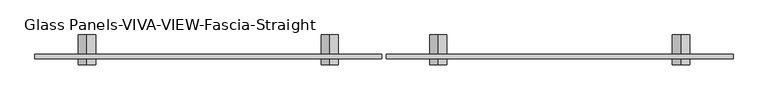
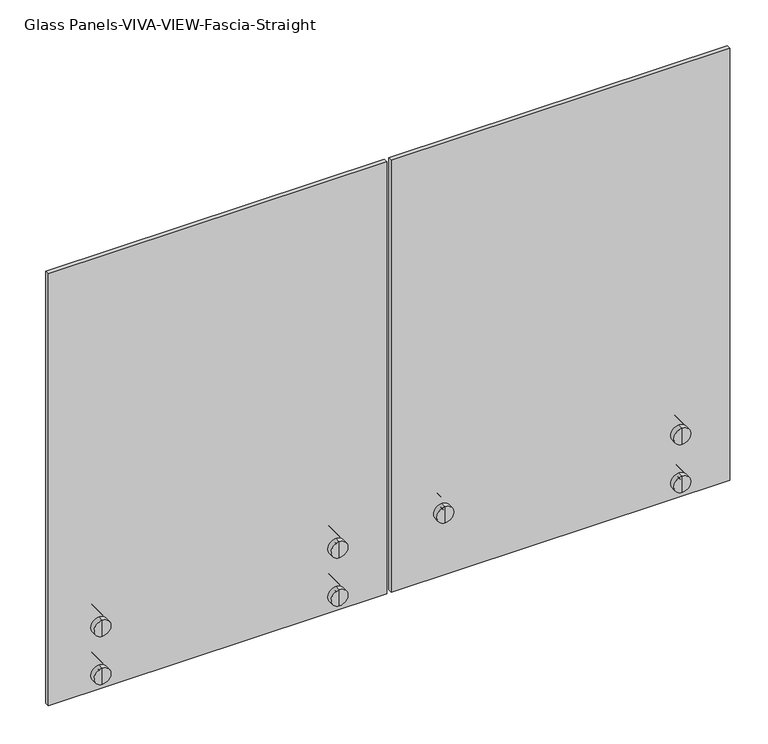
"""IFC4 building model written with IfcOpenShell, lengths in millimetres: railing geometry, Glass Panels-VIVA-VIEW-Fascia-Straight."""

import ifcopenshell
import ifcopenshell.guid

model = None  # the IFC model being written
_history = None  # IfcOwnerHistory: only IFC2X3 demands one
_inside = {}  # id of a spatial element -> (the spatial element, [elements in it])
_under = {}  # id of a project, library or spatial element -> (it, [spatial elements below it])
_declared = {}  # id of a project -> (the project, [libraries it declares])
_typed = {}  # id of a type object -> (the type object, [elements of that type])
_made_of = {}  # id of a material, layer set ... -> (it, [elements and type objects made of it])


def new_model(schema):
    """Start an empty IFC model of exactly this schema.

    Asked for "IFC4X3", IfcOpenShell would pick the latest addendum, in which some entities
    have other attributes; the version numbers below select the first issue.
    IFC2X3 requires an IfcOwnerHistory on every rooted entity: one is made here for all.
    """
    global model, _history
    if schema == "IFC4X3":
        model = ifcopenshell.file(schema_version=(4, 3, 0, 0))
    else:
        model = ifcopenshell.file(schema=schema)
    _inside.clear()
    _under.clear()
    _declared.clear()
    _typed.clear()
    _made_of.clear()
    _history = None
    if model.schema == "IFC2X3":
        org = make("IfcOrganization", Name="unknown")
        user = make(
            "IfcPersonAndOrganization",
            ThePerson=make("IfcPerson", FamilyName="unknown"),
            TheOrganization=org,
        )
        app = make(
            "IfcApplication",
            ApplicationDeveloper=org,
            Version="unknown",
            ApplicationFullName="unknown",
            ApplicationIdentifier="unknown",
        )
        _history = make(
            "IfcOwnerHistory",
            OwningUser=user,
            OwningApplication=app,
            ChangeAction="ADDED",
            CreationDate=0,
        )
    return model


def make(cls, **values):
    """One entity of the class cls with the attributes given. An attribute that is None is left unset."""
    return model.create_entity(
        cls, **{name: value for name, value in values.items() if value is not None}
    )


def rooted(cls, **values):
    """An entity with a GlobalId (a new one), such as an element, a storey or a relation."""
    return make(cls, GlobalId=ifcopenshell.guid.new(), OwnerHistory=_history, **values)


def si_unit(unit_type, name, prefix=None):
    """IfcSIUnit, for example si_unit("LENGTHUNIT", "METRE", prefix="MILLI")."""
    return make("IfcSIUnit", UnitType=unit_type, Prefix=prefix, Name=name)


def assignment(units):
    """IfcUnitAssignment: the units of a project."""
    return None if units is None else make("IfcUnitAssignment", Units=units)


def point(xyz):
    """IfcCartesianPoint."""
    return None if xyz is None else make("IfcCartesianPoint", Coordinates=xyz)


def direction(xyz):
    """IfcDirection."""
    return None if xyz is None else make("IfcDirection", DirectionRatios=xyz)


def frame(location, z_axis=None, x_axis=None):
    """IfcAxis2Placement3D, a coordinate frame: its origin and axes. An axis left out is left unset."""
    return make(
        "IfcAxis2Placement3D",
        Location=point(location),
        Axis=direction(z_axis),
        RefDirection=direction(x_axis),
    )


def origin():
    """The frame at (0, 0, 0) with its axes left unset."""
    return frame((0.0, 0.0, 0.0))


def place(relative_to, where):
    """IfcLocalPlacement: puts the frame where relative to a parent placement (None: the world)."""
    return make(
        "IfcLocalPlacement", PlacementRelTo=relative_to, RelativePlacement=where
    )


def context(
    kind, dimensions, precision=None, world=None, true_north=None, identifier=None
):
    """IfcGeometricRepresentationContext, for example the 3D "Model" context."""
    return make(
        "IfcGeometricRepresentationContext",
        ContextIdentifier=identifier,
        ContextType=kind,
        CoordinateSpaceDimension=dimensions,
        Precision=precision,
        WorldCoordinateSystem=world,
        TrueNorth=true_north,
    )


def project(units=None, contexts=None):
    """IfcProject with its units and contexts."""
    return rooted(
        "IfcProject",
        Name="project",
        RepresentationContexts=contexts,
        UnitsInContext=assignment(units),
    )


def spatial(cls, under=None, at=None, **own):
    """A site, building, storey or space (cls), placed at a placement, below another one or the project."""
    s = rooted(cls, ObjectPlacement=at, **own)
    if under is not None:
        _under.setdefault(under.id(), (under, []))[1].append(s)
    return s


def polyline(points):
    """IfcPolyline through the points."""
    return make("IfcPolyline", Points=[point(p) for p in points])


def circle_curve(where, radius):
    """IfcCircle in the frame where."""
    return make("IfcCircle", Position=where, Radius=radius)


def outline(outer, holes=None, kind="AREA"):
    """IfcArbitraryClosedProfileDef: a profile drawn as a closed curve; with holes, ...WithVoids."""
    if holes is None:
        return make("IfcArbitraryClosedProfileDef", ProfileType=kind, OuterCurve=outer)
    return make(
        "IfcArbitraryProfileDefWithVoids",
        ProfileType=kind,
        OuterCurve=outer,
        InnerCurves=holes,
    )


def extrude(swept, where, along, depth):
    """IfcExtrudedAreaSolid: the profile swept, set in the frame where, extruded along a direction by depth."""
    return make(
        "IfcExtrudedAreaSolid",
        SweptArea=swept,
        Position=where,
        ExtrudedDirection=direction(along),
        Depth=depth,
    )


def shape(context_of_items, identifier, shape_type, items):
    """IfcShapeRepresentation: the items that make up one representation, for example the "Body"."""
    return make(
        "IfcShapeRepresentation",
        ContextOfItems=context_of_items,
        RepresentationIdentifier=identifier,
        RepresentationType=shape_type,
        Items=items,
    )


def source(mapping_origin, context_of_items, identifier, shape_type, items):
    """IfcRepresentationMap: a shape defined once, which mapped items show again and again."""
    return make(
        "IfcRepresentationMap",
        MappingOrigin=mapping_origin,
        MappedRepresentation=shape(context_of_items, identifier, shape_type, items),
    )


def transform(
    local_origin,
    x_axis=None,
    y_axis=None,
    z_axis=None,
    scale=None,
    scale2=None,
    scale3=None,
    uniform=True,
):
    """IfcCartesianTransformationOperator3D, or its non-uniform kind. x_axis, y_axis, z_axis: its Axis1, 2, 3."""
    if uniform:
        return make(
            "IfcCartesianTransformationOperator3D",
            Axis1=direction(x_axis),
            Axis2=direction(y_axis),
            LocalOrigin=point(local_origin),
            Scale=scale,
            Axis3=direction(z_axis),
        )
    return make(
        "IfcCartesianTransformationOperator3DnonUniform",
        Axis1=direction(x_axis),
        Axis2=direction(y_axis),
        LocalOrigin=point(local_origin),
        Scale=scale,
        Axis3=direction(z_axis),
        Scale2=scale2,
        Scale3=scale3,
    )


def mapped(mapping_source, mapping_target):
    """IfcMappedItem: shows the shape of a source again, moved by a transform."""
    return make(
        "IfcMappedItem", MappingSource=mapping_source, MappingTarget=mapping_target
    )


def made_of(thing, what):
    """Note that an element or type object is made of a material, layer set ...; save() writes the relation."""
    if what is not None:
        _made_of.setdefault(what.id(), (what, []))[1].append(thing)
    return thing


def element(
    cls,
    number,
    at=None,
    inside=None,
    cuts=None,
    type_object=None,
    material=None,
    context=None,
    identifier="Body",
    shape_type=None,
    held_by="IfcProductDefinitionShape",
    body=None,
    shapes=None,
    **own,
):
    """One element of the class cls, such as IfcWall. Its Tag is "e" and its number.

    at: its placement. inside: the storey or other place that contains it. cuts: it is an
    opening in that element (IfcRelVoidsElement). A single representation is given by context,
    identifier, shape_type and body (its items); several are given by shapes. held_by: the class
    of the entity that holds the representations. save() writes the other relations.
    """
    e = rooted(cls, Tag="e%d" % number, ObjectPlacement=at, **own)
    if body is not None:
        shapes = [shape(context, identifier, shape_type, body)]
    if shapes is not None:
        e.Representation = make(held_by, Representations=shapes)
    if inside is not None:
        _inside.setdefault(inside.id(), (inside, []))[1].append(e)
    if cuts is not None:
        rooted(
            "IfcRelVoidsElement", RelatingBuildingElement=cuts, RelatedOpeningElement=e
        )
    if type_object is not None:
        _typed.setdefault(type_object.id(), (type_object, []))[1].append(e)
    return made_of(e, material)


def aggregate(whole, parts):
    """IfcRelAggregates: a whole, such as a stair, and the parts it consists of."""
    return rooted("IfcRelAggregates", RelatingObject=whole, RelatedObjects=parts)


def save(model, path):
    """Write the relations noted so far, then the file.

    IfcRelAggregates (storeys below a building ...), IfcRelContainedInSpatialStructure (elements
    in a storey), IfcRelDefinesByType, IfcRelAssociatesMaterial and IfcRelDeclares: one each for
    every whole, place, type object, material and project.
    """
    for whole, parts in _under.values():
        aggregate(whole, parts)
    for where, things in _inside.values():
        rooted(
            "IfcRelContainedInSpatialStructure",
            RelatedElements=things,
            RelatingStructure=where,
        )
    for kind, things in _typed.values():
        rooted("IfcRelDefinesByType", RelatedObjects=things, RelatingType=kind)
    for what, things in _made_of.values():
        rooted("IfcRelAssociatesMaterial", RelatedObjects=things, RelatingMaterial=what)
    for by, libraries in _declared.values():
        rooted("IfcRelDeclares", RelatingContext=by, RelatedDefinitions=libraries)
    model.write(path)


def plane_surface(at):
    """IfcPlane: the flat surface through the origin of the frame at, square to its z axis."""
    return make("IfcPlane", Position=at)


def cylinder_surface(at, radius):
    """IfcCylindricalSurface: all points at the distance radius from the z axis of the frame at."""
    return make("IfcCylindricalSurface", Position=at, Radius=radius)


def advanced_brep(points, edges, surfaces, faces):
    """IfcAdvancedBrep: a solid bounded by faces that lie on surfaces and meet in shared edges.

    An edge is (start, end): straight between two places in points (the first is 0);
    or (start, end, curve); or (start, end, curve, False) where it runs against its curve.
    A face is (place in surfaces, loops), or (place, loops, False) where it looks against
    its surface's normal. A loop lists edges by number (the first is 1), with a minus sign
    where the edge is run from its end to its start. The first loop is the outer one.
    """
    corners = [point(p) for p in points]
    vertices = [make("IfcVertexPoint", VertexGeometry=c) for c in corners]
    made = []
    for start, end, *more in edges:
        made.append(
            make(
                "IfcEdgeCurve",
                EdgeStart=vertices[start],
                EdgeEnd=vertices[end],
                EdgeGeometry=more[0] if more else make("IfcPolyline", Points=[corners[start], corners[end]]),
                SameSense=more[1] if len(more) > 1 else True,
            )
        )
    hull = []
    for where, loops, *sense in faces:
        bounds = []
        for j, loop in enumerate(loops):
            ring = [make("IfcOrientedEdge", EdgeElement=made[abs(k) - 1], Orientation=k > 0) for k in loop]
            bounds.append(
                make(
                    "IfcFaceOuterBound" if j == 0 else "IfcFaceBound",
                    Bound=make("IfcEdgeLoop", EdgeList=ring),
                    Orientation=True,
                )
            )
        hull.append(make("IfcAdvancedFace", Bounds=bounds, FaceSurface=surfaces[where], SameSense=sense[0] if sense else True))
    return make("IfcAdvancedBrep", Outer=make("IfcClosedShell", CfsFaces=hull))


def glass_panels_viva_view_fascia_straight_a0ca7b8d(model_context):
    return source(origin(), model_context, "Body", "SolidModel", [
        advanced_brep(
        [(16277.3042944, -6680.859506, -81.915), (16277.3042944, -6680.859506, -70.485), (16277.3042944, -6680.859506, -50.8), (16277.3042944, -6680.859506, -101.6), (16277.3042944, -6668.159506, -81.915), (16277.3042944, -6668.159506, -70.485), (16277.3042944, -6668.159506, -101.6), (16277.3042944, -6668.159506, -50.8), (16277.3042944, -6611.0096529, -101.6), (16277.3042944, -6611.0096529, -50.8), (16277.3042944, -6611.0096529, -76.2), (16277.3042944, -6698.322006, -101.6), (16277.3042944, -6698.322006, -50.8), (16277.3042944, -6698.322006, -76.2)],
        [
            (0, 1, circle_curve(frame((16277.3042944, -6680.859506, -76.2), z_axis=(0.0, -1.0, 0.0), x_axis=(0.0, 0.0, 1.0)), 5.715)),
            (1, 2),
            (2, 3, circle_curve(frame((16277.3042944, -6680.859506, -76.2), z_axis=(0.0, 1.0, 0.0), x_axis=(0.0, 0.0, 1.0)), 25.4)),
            (3, 0),
            (1, 0, circle_curve(frame((16277.3042944, -6680.859506, -76.2), z_axis=(0.0, -1.0, 0.0), x_axis=(0.0, 0.0, 1.0)), 5.715)),
            (3, 2, circle_curve(frame((16277.3042944, -6680.859506, -76.2), z_axis=(0.0, 1.0, 0.0), x_axis=(0.0, 0.0, 1.0)), 25.4)),
            (4, 5, circle_curve(frame((16277.3042944, -6668.159506, -76.2), z_axis=(0.0, -1.0, 0.0), x_axis=(0.0, 0.0, 1.0)), 5.715)),
            (5, 1),
            (0, 4),
            (5, 4, circle_curve(frame((16277.3042944, -6668.159506, -76.2), z_axis=(0.0, -1.0, 0.0), x_axis=(0.0, 0.0, 1.0)), 5.715)),
            (6, 7, circle_curve(frame((16277.3042944, -6668.159506, -76.2), z_axis=(0.0, -1.0, 0.0), x_axis=(0.0, 0.0, 1.0)), 25.4)),
            (7, 5),
            (4, 6),
            (7, 6, circle_curve(frame((16277.3042944, -6668.159506, -76.2), z_axis=(0.0, -1.0, 0.0), x_axis=(0.0, 0.0, 1.0)), 25.4)),
            (8, 9, circle_curve(frame((16277.3042944, -6611.0096529, -76.2), z_axis=(0.0, -1.0, 0.0), x_axis=(0.0, 0.0, 1.0)), 25.4)),
            (9, 7),
            (6, 8),
            (9, 8, circle_curve(frame((16277.3042944, -6611.0096529, -76.2), z_axis=(0.0, -1.0, 0.0), x_axis=(0.0, 0.0, 1.0)), 25.4)),
            (10, 9),
            (8, 10),
            (11, 12, circle_curve(frame((16277.3042944, -6698.322006, -76.2), z_axis=(0.0, -1.0, 0.0), x_axis=(0.0, 0.0, 1.0)), 25.4)),
            (12, 13),
            (13, 11),
            (12, 11, circle_curve(frame((16277.3042944, -6698.322006, -76.2), z_axis=(0.0, -1.0, 0.0), x_axis=(0.0, 0.0, 1.0)), 25.4)),
            (2, 12),
            (11, 3),
        ],
        [
            plane_surface(frame((16277.3042944, -6680.859506, -76.2), z_axis=(0.0, 1.0, 0.0), x_axis=(0.0, 0.0, 1.0))),
            cylinder_surface(frame((16277.3042944, -6766.5846529, -76.2), z_axis=(0.0, 1.0, 0.0), x_axis=(0.0, 0.0, 1.0)), 5.715),
            plane_surface(frame((16277.3042944, -6668.159506, -76.2), z_axis=(0.0, -1.0, 0.0), x_axis=(0.0, 0.0, 1.0))),
            cylinder_surface(frame((16277.3042944, -6766.5846529, -76.2), z_axis=(0.0, 1.0, 0.0), x_axis=(0.0, 0.0, 1.0)), 25.4),
            plane_surface(frame((16277.3042944, -6611.0096529, -76.2), z_axis=(0.0, 1.0, 0.0), x_axis=(0.0, 0.0, 1.0))),
            plane_surface(frame((16277.3042944, -6698.322006, -76.2), z_axis=(0.0, -1.0, 0.0), x_axis=(0.0, 0.0, 1.0))),
        ],
        [
            (0, [[1, 2, 3, 4]]),
            (0, [[5, -4, 6, -2]]),
            (1, [[7, 8, -1, 9]]),
            (1, [[10, -9, -5, -8]]),
            (2, [[11, 12, -7, 13]]),
            (2, [[14, -13, -10, -12]]),
            (3, [[15, 16, -11, 17]]),
            (3, [[18, -17, -14, -16]]),
            (4, [[19, -15, 20]]),
            (4, [[-20, -18, -19]]),
            (5, [[21, 22, 23]]),
            (5, [[24, -23, -22]]),
            (3, [[-3, 25, -21, 26]]),
            (3, [[-6, -26, -24, -25]]),
        ],
    ),
        advanced_brep(
        [(16988.5042944, -6698.322006, -254.0), (16988.5042944, -6698.322006, -203.2), (16988.5042944, -6698.322006, -228.6), (16988.5042944, -6680.859506, -254.0), (16988.5042944, -6680.859506, -203.2), (16988.5042944, -6680.859506, -234.315), (16988.5042944, -6680.859506, -222.885), (16988.5042944, -6668.159506, -234.315), (16988.5042944, -6668.159506, -222.885), (16988.5042944, -6668.159506, -254.0), (16988.5042944, -6668.159506, -203.2), (16988.5042944, -6611.0096529, -254.0), (16988.5042944, -6611.0096529, -203.2), (16988.5042944, -6611.0096529, -228.6)],
        [
            (0, 1, circle_curve(frame((16988.5042944, -6698.322006, -228.6), z_axis=(0.0, -1.0, 0.0), x_axis=(0.0, 0.0, 1.0)), 25.4)),
            (1, 2),
            (2, 0),
            (1, 0, circle_curve(frame((16988.5042944, -6698.322006, -228.6), z_axis=(0.0, -1.0, 0.0), x_axis=(0.0, 0.0, 1.0)), 25.4)),
            (3, 4, circle_curve(frame((16988.5042944, -6680.859506, -228.6), z_axis=(0.0, -1.0, 0.0), x_axis=(0.0, 0.0, 1.0)), 25.4)),
            (4, 1),
            (0, 3),
            (4, 3, circle_curve(frame((16988.5042944, -6680.859506, -228.6), z_axis=(0.0, -1.0, 0.0), x_axis=(0.0, 0.0, 1.0)), 25.4)),
            (5, 6, circle_curve(frame((16988.5042944, -6680.859506, -228.6), z_axis=(0.0, -1.0, 0.0), x_axis=(0.0, 0.0, 1.0)), 5.715)),
            (6, 4),
            (3, 5),
            (6, 5, circle_curve(frame((16988.5042944, -6680.859506, -228.6), z_axis=(0.0, -1.0, 0.0), x_axis=(0.0, 0.0, 1.0)), 5.715)),
            (7, 8, circle_curve(frame((16988.5042944, -6668.159506, -228.6), z_axis=(0.0, -1.0, 0.0), x_axis=(0.0, 0.0, 1.0)), 5.715)),
            (8, 6),
            (5, 7),
            (8, 7, circle_curve(frame((16988.5042944, -6668.159506, -228.6), z_axis=(0.0, -1.0, 0.0), x_axis=(0.0, 0.0, 1.0)), 5.715)),
            (9, 10, circle_curve(frame((16988.5042944, -6668.159506, -228.6), z_axis=(0.0, -1.0, 0.0), x_axis=(0.0, 0.0, 1.0)), 25.4)),
            (10, 8),
            (7, 9),
            (10, 9, circle_curve(frame((16988.5042944, -6668.159506, -228.6), z_axis=(0.0, -1.0, 0.0), x_axis=(0.0, 0.0, 1.0)), 25.4)),
            (11, 12, circle_curve(frame((16988.5042944, -6611.0096529, -228.6), z_axis=(0.0, -1.0, 0.0), x_axis=(0.0, 0.0, 1.0)), 25.4)),
            (12, 10),
            (9, 11),
            (12, 11, circle_curve(frame((16988.5042944, -6611.0096529, -228.6), z_axis=(0.0, -1.0, 0.0), x_axis=(0.0, 0.0, 1.0)), 25.4)),
            (13, 12),
            (11, 13),
        ],
        [
            plane_surface(frame((16988.5042944, -6698.322006, -228.6), z_axis=(0.0, -1.0, 0.0), x_axis=(0.0, 0.0, 1.0))),
            cylinder_surface(frame((16988.5042944, -6766.5846529, -228.6), z_axis=(0.0, 1.0, 0.0), x_axis=(0.0, 0.0, 1.0)), 25.4),
            plane_surface(frame((16988.5042944, -6680.859506, -228.6), z_axis=(0.0, 1.0, 0.0), x_axis=(0.0, 0.0, 1.0))),
            cylinder_surface(frame((16988.5042944, -6766.5846529, -228.6), z_axis=(0.0, 1.0, 0.0), x_axis=(0.0, 0.0, 1.0)), 5.715),
            plane_surface(frame((16988.5042944, -6668.159506, -228.6), z_axis=(0.0, -1.0, 0.0), x_axis=(0.0, 0.0, 1.0))),
            plane_surface(frame((16988.5042944, -6611.0096529, -228.6), z_axis=(0.0, 1.0, 0.0), x_axis=(0.0, 0.0, 1.0))),
        ],
        [
            (0, [[1, 2, 3]]),
            (0, [[4, -3, -2]]),
            (1, [[5, 6, -1, 7]]),
            (1, [[8, -7, -4, -6]]),
            (2, [[9, 10, -5, 11]]),
            (2, [[12, -11, -8, -10]]),
            (3, [[13, 14, -9, 15]]),
            (3, [[16, -15, -12, -14]]),
            (4, [[17, 18, -13, 19]]),
            (4, [[20, -19, -16, -18]]),
            (1, [[21, 22, -17, 23]]),
            (1, [[24, -23, -20, -22]]),
            (5, [[25, -21, 26]]),
            (5, [[-26, -24, -25]]),
        ],
    ),
        advanced_brep(
        [(16988.5042944, -6680.859506, -81.915), (16988.5042944, -6680.859506, -70.485), (16988.5042944, -6680.859506, -50.8), (16988.5042944, -6680.859506, -101.6), (16988.5042944, -6668.159506, -81.915), (16988.5042944, -6668.159506, -70.485), (16988.5042944, -6668.159506, -101.6), (16988.5042944, -6668.159506, -50.8), (16988.5042944, -6611.0096529, -101.6), (16988.5042944, -6611.0096529, -50.8), (16988.5042944, -6611.0096529, -76.2), (16988.5042944, -6698.322006, -101.6), (16988.5042944, -6698.322006, -50.8), (16988.5042944, -6698.322006, -76.2)],
        [
            (0, 1, circle_curve(frame((16988.5042944, -6680.859506, -76.2), z_axis=(0.0, -1.0, 0.0), x_axis=(0.0, 0.0, 1.0)), 5.715)),
            (1, 2),
            (2, 3, circle_curve(frame((16988.5042944, -6680.859506, -76.2), z_axis=(0.0, 1.0, 0.0), x_axis=(0.0, 0.0, 1.0)), 25.4)),
            (3, 0),
            (1, 0, circle_curve(frame((16988.5042944, -6680.859506, -76.2), z_axis=(0.0, -1.0, 0.0), x_axis=(0.0, 0.0, 1.0)), 5.715)),
            (3, 2, circle_curve(frame((16988.5042944, -6680.859506, -76.2), z_axis=(0.0, 1.0, 0.0), x_axis=(0.0, 0.0, 1.0)), 25.4)),
            (4, 5, circle_curve(frame((16988.5042944, -6668.159506, -76.2), z_axis=(0.0, -1.0, 0.0), x_axis=(0.0, 0.0, 1.0)), 5.715)),
            (5, 1),
            (0, 4),
            (5, 4, circle_curve(frame((16988.5042944, -6668.159506, -76.2), z_axis=(0.0, -1.0, 0.0), x_axis=(0.0, 0.0, 1.0)), 5.715)),
            (6, 7, circle_curve(frame((16988.5042944, -6668.159506, -76.2), z_axis=(0.0, -1.0, 0.0), x_axis=(0.0, 0.0, 1.0)), 25.4)),
            (7, 5),
            (4, 6),
            (7, 6, circle_curve(frame((16988.5042944, -6668.159506, -76.2), z_axis=(0.0, -1.0, 0.0), x_axis=(0.0, 0.0, 1.0)), 25.4)),
            (8, 9, circle_curve(frame((16988.5042944, -6611.0096529, -76.2), z_axis=(0.0, -1.0, 0.0), x_axis=(0.0, 0.0, 1.0)), 25.4)),
            (9, 7),
            (6, 8),
            (9, 8, circle_curve(frame((16988.5042944, -6611.0096529, -76.2), z_axis=(0.0, -1.0, 0.0), x_axis=(0.0, 0.0, 1.0)), 25.4)),
            (10, 9),
            (8, 10),
            (11, 12, circle_curve(frame((16988.5042944, -6698.322006, -76.2), z_axis=(0.0, -1.0, 0.0), x_axis=(0.0, 0.0, 1.0)), 25.4)),
            (12, 13),
            (13, 11),
            (12, 11, circle_curve(frame((16988.5042944, -6698.322006, -76.2), z_axis=(0.0, -1.0, 0.0), x_axis=(0.0, 0.0, 1.0)), 25.4)),
            (2, 12),
            (11, 3),
        ],
        [
            plane_surface(frame((16988.5042944, -6680.859506, -76.2), z_axis=(0.0, 1.0, 0.0), x_axis=(0.0, 0.0, 1.0))),
            cylinder_surface(frame((16988.5042944, -6766.5846529, -76.2), z_axis=(0.0, 1.0, 0.0), x_axis=(0.0, 0.0, 1.0)), 5.715),
            plane_surface(frame((16988.5042944, -6668.159506, -76.2), z_axis=(0.0, -1.0, 0.0), x_axis=(0.0, 0.0, 1.0))),
            cylinder_surface(frame((16988.5042944, -6766.5846529, -76.2), z_axis=(0.0, 1.0, 0.0), x_axis=(0.0, 0.0, 1.0)), 25.4),
            plane_surface(frame((16988.5042944, -6611.0096529, -76.2), z_axis=(0.0, 1.0, 0.0), x_axis=(0.0, 0.0, 1.0))),
            plane_surface(frame((16988.5042944, -6698.322006, -76.2), z_axis=(0.0, -1.0, 0.0), x_axis=(0.0, 0.0, 1.0))),
        ],
        [
            (0, [[1, 2, 3, 4]]),
            (0, [[5, -4, 6, -2]]),
            (1, [[7, 8, -1, 9]]),
            (1, [[10, -9, -5, -8]]),
            (2, [[11, 12, -7, 13]]),
            (2, [[14, -13, -10, -12]]),
            (3, [[15, 16, -11, 17]]),
            (3, [[18, -17, -14, -16]]),
            (4, [[19, -15, 20]]),
            (4, [[-20, -18, -19]]),
            (5, [[21, 22, 23]]),
            (5, [[24, -23, -22]]),
            (3, [[-3, 25, -21, 26]]),
            (3, [[-6, -26, -24, -25]]),
        ],
    ),
        extrude(outline(polyline([(16124.9042944, -6668.1597999), (17140.9042944, -6668.1597999), (17140.9042944, -6680.8597999), (16124.9042944, -6680.8597999), (16124.9042944, -6668.1597999)])), frame((0.0, 0.0, -279.4), z_axis=(0.0, 0.0, 1.0), x_axis=(1.0, 0.0, 0.0)), (0.0, 0.0, 1.0), 1370.0125),
        advanced_brep(
        [(15248.6042944, -6698.322006, -254.0), (15248.6042944, -6698.322006, -203.2), (15248.6042944, -6698.322006, -228.6), (15248.6042944, -6680.859506, -254.0), (15248.6042944, -6680.859506, -203.2), (15248.6042944, -6680.859506, -234.315), (15248.6042944, -6680.859506, -222.885), (15248.6042944, -6668.159506, -234.315), (15248.6042944, -6668.159506, -222.885), (15248.6042944, -6668.159506, -254.0), (15248.6042944, -6668.159506, -203.2), (15248.6042944, -6611.0096529, -254.0), (15248.6042944, -6611.0096529, -203.2), (15248.6042944, -6611.0096529, -228.6)],
        [
            (0, 1, circle_curve(frame((15248.6042944, -6698.322006, -228.6), z_axis=(0.0, -1.0, 0.0), x_axis=(0.0, 0.0, 1.0)), 25.4)),
            (1, 2),
            (2, 0),
            (1, 0, circle_curve(frame((15248.6042944, -6698.322006, -228.6), z_axis=(0.0, -1.0, 0.0), x_axis=(0.0, 0.0, 1.0)), 25.4)),
            (3, 4, circle_curve(frame((15248.6042944, -6680.859506, -228.6), z_axis=(0.0, -1.0, 0.0), x_axis=(0.0, 0.0, 1.0)), 25.4)),
            (4, 1),
            (0, 3),
            (4, 3, circle_curve(frame((15248.6042944, -6680.859506, -228.6), z_axis=(0.0, -1.0, 0.0), x_axis=(0.0, 0.0, 1.0)), 25.4)),
            (5, 6, circle_curve(frame((15248.6042944, -6680.859506, -228.6), z_axis=(0.0, -1.0, 0.0), x_axis=(0.0, 0.0, 1.0)), 5.715)),
            (6, 4),
            (3, 5),
            (6, 5, circle_curve(frame((15248.6042944, -6680.859506, -228.6), z_axis=(0.0, -1.0, 0.0), x_axis=(0.0, 0.0, 1.0)), 5.715)),
            (7, 8, circle_curve(frame((15248.6042944, -6668.159506, -228.6), z_axis=(0.0, -1.0, 0.0), x_axis=(0.0, 0.0, 1.0)), 5.715)),
            (8, 6),
            (5, 7),
            (8, 7, circle_curve(frame((15248.6042944, -6668.159506, -228.6), z_axis=(0.0, -1.0, 0.0), x_axis=(0.0, 0.0, 1.0)), 5.715)),
            (9, 10, circle_curve(frame((15248.6042944, -6668.159506, -228.6), z_axis=(0.0, -1.0, 0.0), x_axis=(0.0, 0.0, 1.0)), 25.4)),
            (10, 8),
            (7, 9),
            (10, 9, circle_curve(frame((15248.6042944, -6668.159506, -228.6), z_axis=(0.0, -1.0, 0.0), x_axis=(0.0, 0.0, 1.0)), 25.4)),
            (11, 12, circle_curve(frame((15248.6042944, -6611.0096529, -228.6), z_axis=(0.0, -1.0, 0.0), x_axis=(0.0, 0.0, 1.0)), 25.4)),
            (12, 10),
            (9, 11),
            (12, 11, circle_curve(frame((15248.6042944, -6611.0096529, -228.6), z_axis=(0.0, -1.0, 0.0), x_axis=(0.0, 0.0, 1.0)), 25.4)),
            (13, 12),
            (11, 13),
        ],
        [
            plane_surface(frame((15248.6042944, -6698.322006, -228.6), z_axis=(0.0, -1.0, 0.0), x_axis=(0.0, 0.0, 1.0))),
            cylinder_surface(frame((15248.6042944, -6766.5846529, -228.6), z_axis=(0.0, 1.0, 0.0), x_axis=(0.0, 0.0, 1.0)), 25.4),
            plane_surface(frame((15248.6042944, -6680.859506, -228.6), z_axis=(0.0, 1.0, 0.0), x_axis=(0.0, 0.0, 1.0))),
            cylinder_surface(frame((15248.6042944, -6766.5846529, -228.6), z_axis=(0.0, 1.0, 0.0), x_axis=(0.0, 0.0, 1.0)), 5.715),
            plane_surface(frame((15248.6042944, -6668.159506, -228.6), z_axis=(0.0, -1.0, 0.0), x_axis=(0.0, 0.0, 1.0))),
            plane_surface(frame((15248.6042944, -6611.0096529, -228.6), z_axis=(0.0, 1.0, 0.0), x_axis=(0.0, 0.0, 1.0))),
        ],
        [
            (0, [[1, 2, 3]]),
            (0, [[4, -3, -2]]),
            (1, [[5, 6, -1, 7]]),
            (1, [[8, -7, -4, -6]]),
            (2, [[9, 10, -5, 11]]),
            (2, [[12, -11, -8, -10]]),
            (3, [[13, 14, -9, 15]]),
            (3, [[16, -15, -12, -14]]),
            (4, [[17, 18, -13, 19]]),
            (4, [[20, -19, -16, -18]]),
            (1, [[21, 22, -17, 23]]),
            (1, [[24, -23, -20, -22]]),
            (5, [[25, -21, 26]]),
            (5, [[-26, -24, -25]]),
        ],
    ),
        advanced_brep(
        [(15248.6042944, -6680.859506, -81.915), (15248.6042944, -6680.859506, -70.485), (15248.6042944, -6680.859506, -50.8), (15248.6042944, -6680.859506, -101.6), (15248.6042944, -6668.159506, -81.915), (15248.6042944, -6668.159506, -70.485), (15248.6042944, -6668.159506, -101.6), (15248.6042944, -6668.159506, -50.8), (15248.6042944, -6611.0096529, -101.6), (15248.6042944, -6611.0096529, -50.8), (15248.6042944, -6611.0096529, -76.2), (15248.6042944, -6698.322006, -101.6), (15248.6042944, -6698.322006, -50.8), (15248.6042944, -6698.322006, -76.2)],
        [
            (0, 1, circle_curve(frame((15248.6042944, -6680.859506, -76.2), z_axis=(0.0, -1.0, 0.0), x_axis=(0.0, 0.0, 1.0)), 5.715)),
            (1, 2),
            (2, 3, circle_curve(frame((15248.6042944, -6680.859506, -76.2), z_axis=(0.0, 1.0, 0.0), x_axis=(0.0, 0.0, 1.0)), 25.4)),
            (3, 0),
            (1, 0, circle_curve(frame((15248.6042944, -6680.859506, -76.2), z_axis=(0.0, -1.0, 0.0), x_axis=(0.0, 0.0, 1.0)), 5.715)),
            (3, 2, circle_curve(frame((15248.6042944, -6680.859506, -76.2), z_axis=(0.0, 1.0, 0.0), x_axis=(0.0, 0.0, 1.0)), 25.4)),
            (4, 5, circle_curve(frame((15248.6042944, -6668.159506, -76.2), z_axis=(0.0, -1.0, 0.0), x_axis=(0.0, 0.0, 1.0)), 5.715)),
            (5, 1),
            (0, 4),
            (5, 4, circle_curve(frame((15248.6042944, -6668.159506, -76.2), z_axis=(0.0, -1.0, 0.0), x_axis=(0.0, 0.0, 1.0)), 5.715)),
            (6, 7, circle_curve(frame((15248.6042944, -6668.159506, -76.2), z_axis=(0.0, -1.0, 0.0), x_axis=(0.0, 0.0, 1.0)), 25.4)),
            (7, 5),
            (4, 6),
            (7, 6, circle_curve(frame((15248.6042944, -6668.159506, -76.2), z_axis=(0.0, -1.0, 0.0), x_axis=(0.0, 0.0, 1.0)), 25.4)),
            (8, 9, circle_curve(frame((15248.6042944, -6611.0096529, -76.2), z_axis=(0.0, -1.0, 0.0), x_axis=(0.0, 0.0, 1.0)), 25.4)),
            (9, 7),
            (6, 8),
            (9, 8, circle_curve(frame((15248.6042944, -6611.0096529, -76.2), z_axis=(0.0, -1.0, 0.0), x_axis=(0.0, 0.0, 1.0)), 25.4)),
            (10, 9),
            (8, 10),
            (11, 12, circle_curve(frame((15248.6042944, -6698.322006, -76.2), z_axis=(0.0, -1.0, 0.0), x_axis=(0.0, 0.0, 1.0)), 25.4)),
            (12, 13),
            (13, 11),
            (12, 11, circle_curve(frame((15248.6042944, -6698.322006, -76.2), z_axis=(0.0, -1.0, 0.0), x_axis=(0.0, 0.0, 1.0)), 25.4)),
            (2, 12),
            (11, 3),
        ],
        [
            plane_surface(frame((15248.6042944, -6680.859506, -76.2), z_axis=(0.0, 1.0, 0.0), x_axis=(0.0, 0.0, 1.0))),
            cylinder_surface(frame((15248.6042944, -6766.5846529, -76.2), z_axis=(0.0, 1.0, 0.0), x_axis=(0.0, 0.0, 1.0)), 5.715),
            plane_surface(frame((15248.6042944, -6668.159506, -76.2), z_axis=(0.0, -1.0, 0.0), x_axis=(0.0, 0.0, 1.0))),
            cylinder_surface(frame((15248.6042944, -6766.5846529, -76.2), z_axis=(0.0, 1.0, 0.0), x_axis=(0.0, 0.0, 1.0)), 25.4),
            plane_surface(frame((15248.6042944, -6611.0096529, -76.2), z_axis=(0.0, 1.0, 0.0), x_axis=(0.0, 0.0, 1.0))),
            plane_surface(frame((15248.6042944, -6698.322006, -76.2), z_axis=(0.0, -1.0, 0.0), x_axis=(0.0, 0.0, 1.0))),
        ],
        [
            (0, [[1, 2, 3, 4]]),
            (0, [[5, -4, 6, -2]]),
            (1, [[7, 8, -1, 9]]),
            (1, [[10, -9, -5, -8]]),
            (2, [[11, 12, -7, 13]]),
            (2, [[14, -13, -10, -12]]),
            (3, [[15, 16, -11, 17]]),
            (3, [[18, -17, -14, -16]]),
            (4, [[19, -15, 20]]),
            (4, [[-20, -18, -19]]),
            (5, [[21, 22, 23]]),
            (5, [[24, -23, -22]]),
            (3, [[-3, 25, -21, 26]]),
            (3, [[-6, -26, -24, -25]]),
        ],
    ),
        advanced_brep(
        [(15959.8042944, -6698.322006, -254.0), (15959.8042944, -6698.322006, -203.2), (15959.8042944, -6698.322006, -228.6), (15959.8042944, -6680.859506, -254.0), (15959.8042944, -6680.859506, -203.2), (15959.8042944, -6680.859506, -234.315), (15959.8042944, -6680.859506, -222.885), (15959.8042944, -6668.159506, -234.315), (15959.8042944, -6668.159506, -222.885), (15959.8042944, -6668.159506, -254.0), (15959.8042944, -6668.159506, -203.2), (15959.8042944, -6611.0096529, -254.0), (15959.8042944, -6611.0096529, -203.2), (15959.8042944, -6611.0096529, -228.6)],
        [
            (0, 1, circle_curve(frame((15959.8042944, -6698.322006, -228.6), z_axis=(0.0, -1.0, 0.0), x_axis=(0.0, 0.0, 1.0)), 25.4)),
            (1, 2),
            (2, 0),
            (1, 0, circle_curve(frame((15959.8042944, -6698.322006, -228.6), z_axis=(0.0, -1.0, 0.0), x_axis=(0.0, 0.0, 1.0)), 25.4)),
            (3, 4, circle_curve(frame((15959.8042944, -6680.859506, -228.6), z_axis=(0.0, -1.0, 0.0), x_axis=(0.0, 0.0, 1.0)), 25.4)),
            (4, 1),
            (0, 3),
            (4, 3, circle_curve(frame((15959.8042944, -6680.859506, -228.6), z_axis=(0.0, -1.0, 0.0), x_axis=(0.0, 0.0, 1.0)), 25.4)),
            (5, 6, circle_curve(frame((15959.8042944, -6680.859506, -228.6), z_axis=(0.0, -1.0, 0.0), x_axis=(0.0, 0.0, 1.0)), 5.715)),
            (6, 4),
            (3, 5),
            (6, 5, circle_curve(frame((15959.8042944, -6680.859506, -228.6), z_axis=(0.0, -1.0, 0.0), x_axis=(0.0, 0.0, 1.0)), 5.715)),
            (7, 8, circle_curve(frame((15959.8042944, -6668.159506, -228.6), z_axis=(0.0, -1.0, 0.0), x_axis=(0.0, 0.0, 1.0)), 5.715)),
            (8, 6),
            (5, 7),
            (8, 7, circle_curve(frame((15959.8042944, -6668.159506, -228.6), z_axis=(0.0, -1.0, 0.0), x_axis=(0.0, 0.0, 1.0)), 5.715)),
            (9, 10, circle_curve(frame((15959.8042944, -6668.159506, -228.6), z_axis=(0.0, -1.0, 0.0), x_axis=(0.0, 0.0, 1.0)), 25.4)),
            (10, 8),
            (7, 9),
            (10, 9, circle_curve(frame((15959.8042944, -6668.159506, -228.6), z_axis=(0.0, -1.0, 0.0), x_axis=(0.0, 0.0, 1.0)), 25.4)),
            (11, 12, circle_curve(frame((15959.8042944, -6611.0096529, -228.6), z_axis=(0.0, -1.0, 0.0), x_axis=(0.0, 0.0, 1.0)), 25.4)),
            (12, 10),
            (9, 11),
            (12, 11, circle_curve(frame((15959.8042944, -6611.0096529, -228.6), z_axis=(0.0, -1.0, 0.0), x_axis=(0.0, 0.0, 1.0)), 25.4)),
            (13, 12),
            (11, 13),
        ],
        [
            plane_surface(frame((15959.8042944, -6698.322006, -228.6), z_axis=(0.0, -1.0, 0.0), x_axis=(0.0, 0.0, 1.0))),
            cylinder_surface(frame((15959.8042944, -6766.5846529, -228.6), z_axis=(0.0, 1.0, 0.0), x_axis=(0.0, 0.0, 1.0)), 25.4),
            plane_surface(frame((15959.8042944, -6680.859506, -228.6), z_axis=(0.0, 1.0, 0.0), x_axis=(0.0, 0.0, 1.0))),
            cylinder_surface(frame((15959.8042944, -6766.5846529, -228.6), z_axis=(0.0, 1.0, 0.0), x_axis=(0.0, 0.0, 1.0)), 5.715),
            plane_surface(frame((15959.8042944, -6668.159506, -228.6), z_axis=(0.0, -1.0, 0.0), x_axis=(0.0, 0.0, 1.0))),
            plane_surface(frame((15959.8042944, -6611.0096529, -228.6), z_axis=(0.0, 1.0, 0.0), x_axis=(0.0, 0.0, 1.0))),
        ],
        [
            (0, [[1, 2, 3]]),
            (0, [[4, -3, -2]]),
            (1, [[5, 6, -1, 7]]),
            (1, [[8, -7, -4, -6]]),
            (2, [[9, 10, -5, 11]]),
            (2, [[12, -11, -8, -10]]),
            (3, [[13, 14, -9, 15]]),
            (3, [[16, -15, -12, -14]]),
            (4, [[17, 18, -13, 19]]),
            (4, [[20, -19, -16, -18]]),
            (1, [[21, 22, -17, 23]]),
            (1, [[24, -23, -20, -22]]),
            (5, [[25, -21, 26]]),
            (5, [[-26, -24, -25]]),
        ],
    ),
        advanced_brep(
        [(15959.8042944, -6680.859506, -81.915), (15959.8042944, -6680.859506, -70.485), (15959.8042944, -6680.859506, -50.8), (15959.8042944, -6680.859506, -101.6), (15959.8042944, -6668.159506, -81.915), (15959.8042944, -6668.159506, -70.485), (15959.8042944, -6668.159506, -101.6), (15959.8042944, -6668.159506, -50.8), (15959.8042944, -6611.0096529, -101.6), (15959.8042944, -6611.0096529, -50.8), (15959.8042944, -6611.0096529, -76.2), (15959.8042944, -6698.322006, -101.6), (15959.8042944, -6698.322006, -50.8), (15959.8042944, -6698.322006, -76.2)],
        [
            (0, 1, circle_curve(frame((15959.8042944, -6680.859506, -76.2), z_axis=(0.0, -1.0, 0.0), x_axis=(0.0, 0.0, 1.0)), 5.715)),
            (1, 2),
            (2, 3, circle_curve(frame((15959.8042944, -6680.859506, -76.2), z_axis=(0.0, 1.0, 0.0), x_axis=(0.0, 0.0, 1.0)), 25.4)),
            (3, 0),
            (1, 0, circle_curve(frame((15959.8042944, -6680.859506, -76.2), z_axis=(0.0, -1.0, 0.0), x_axis=(0.0, 0.0, 1.0)), 5.715)),
            (3, 2, circle_curve(frame((15959.8042944, -6680.859506, -76.2), z_axis=(0.0, 1.0, 0.0), x_axis=(0.0, 0.0, 1.0)), 25.4)),
            (4, 5, circle_curve(frame((15959.8042944, -6668.159506, -76.2), z_axis=(0.0, -1.0, 0.0), x_axis=(0.0, 0.0, 1.0)), 5.715)),
            (5, 1),
            (0, 4),
            (5, 4, circle_curve(frame((15959.8042944, -6668.159506, -76.2), z_axis=(0.0, -1.0, 0.0), x_axis=(0.0, 0.0, 1.0)), 5.715)),
            (6, 7, circle_curve(frame((15959.8042944, -6668.159506, -76.2), z_axis=(0.0, -1.0, 0.0), x_axis=(0.0, 0.0, 1.0)), 25.4)),
            (7, 5),
            (4, 6),
            (7, 6, circle_curve(frame((15959.8042944, -6668.159506, -76.2), z_axis=(0.0, -1.0, 0.0), x_axis=(0.0, 0.0, 1.0)), 25.4)),
            (8, 9, circle_curve(frame((15959.8042944, -6611.0096529, -76.2), z_axis=(0.0, -1.0, 0.0), x_axis=(0.0, 0.0, 1.0)), 25.4)),
            (9, 7),
            (6, 8),
            (9, 8, circle_curve(frame((15959.8042944, -6611.0096529, -76.2), z_axis=(0.0, -1.0, 0.0), x_axis=(0.0, 0.0, 1.0)), 25.4)),
            (10, 9),
            (8, 10),
            (11, 12, circle_curve(frame((15959.8042944, -6698.322006, -76.2), z_axis=(0.0, -1.0, 0.0), x_axis=(0.0, 0.0, 1.0)), 25.4)),
            (12, 13),
            (13, 11),
            (12, 11, circle_curve(frame((15959.8042944, -6698.322006, -76.2), z_axis=(0.0, -1.0, 0.0), x_axis=(0.0, 0.0, 1.0)), 25.4)),
            (2, 12),
            (11, 3),
        ],
        [
            plane_surface(frame((15959.8042944, -6680.859506, -76.2), z_axis=(0.0, 1.0, 0.0), x_axis=(0.0, 0.0, 1.0))),
            cylinder_surface(frame((15959.8042944, -6766.5846529, -76.2), z_axis=(0.0, 1.0, 0.0), x_axis=(0.0, 0.0, 1.0)), 5.715),
            plane_surface(frame((15959.8042944, -6668.159506, -76.2), z_axis=(0.0, -1.0, 0.0), x_axis=(0.0, 0.0, 1.0))),
            cylinder_surface(frame((15959.8042944, -6766.5846529, -76.2), z_axis=(0.0, 1.0, 0.0), x_axis=(0.0, 0.0, 1.0)), 25.4),
            plane_surface(frame((15959.8042944, -6611.0096529, -76.2), z_axis=(0.0, 1.0, 0.0), x_axis=(0.0, 0.0, 1.0))),
            plane_surface(frame((15959.8042944, -6698.322006, -76.2), z_axis=(0.0, -1.0, 0.0), x_axis=(0.0, 0.0, 1.0))),
        ],
        [
            (0, [[1, 2, 3, 4]]),
            (0, [[5, -4, 6, -2]]),
            (1, [[7, 8, -1, 9]]),
            (1, [[10, -9, -5, -8]]),
            (2, [[11, 12, -7, 13]]),
            (2, [[14, -13, -10, -12]]),
            (3, [[15, 16, -11, 17]]),
            (3, [[18, -17, -14, -16]]),
            (4, [[19, -15, 20]]),
            (4, [[-20, -18, -19]]),
            (5, [[21, 22, 23]]),
            (5, [[24, -23, -22]]),
            (3, [[-3, 25, -21, 26]]),
            (3, [[-6, -26, -24, -25]]),
        ],
    ),
        extrude(outline(polyline([(15096.2042944, -6668.1597999), (16112.2042944, -6668.1597999), (16112.2042944, -6680.8597999), (15096.2042944, -6680.8597999), (15096.2042944, -6668.1597999)])), frame((0.0, 0.0, -279.4), z_axis=(0.0, 0.0, 1.0), x_axis=(1.0, 0.0, 0.0)), (0.0, 0.0, 1.0), 1370.0125),
    ])


if __name__ == "__main__":
    model = new_model("IFC4")
    model_context = context("Model", 3, world=origin())
    ifc_project = project(units=[si_unit("LENGTHUNIT", "METRE", prefix="MILLI")], contexts=[model_context])
    site = spatial("IfcSite", under=ifc_project)
    building = spatial("IfcBuilding", under=site)
    placement = place(None, origin())
    glass_panels_viva_view_fascia_straight_shape = glass_panels_viva_view_fascia_straight_a0ca7b8d(model_context)
    element("IfcRailing", 1, ObjectType="Glass Panels-VIVA-VIEW-Fascia-Straight", at=placement, inside=building, context=model_context, shape_type="MappedRepresentation", body=[
        mapped(glass_panels_viva_view_fascia_straight_shape, transform((0.0, 0.0, 0.0), x_axis=(1.0, 0.0, 0.0), y_axis=(0.0, 1.0, 0.0), z_axis=(0.0, 0.0, 1.0))),
    ])
    save(model, "model.ifc")
